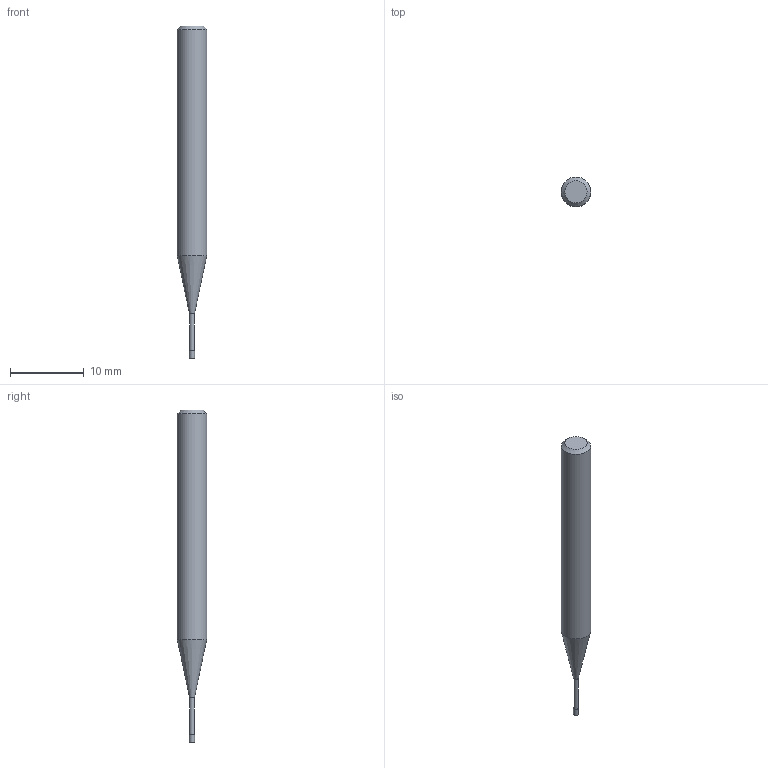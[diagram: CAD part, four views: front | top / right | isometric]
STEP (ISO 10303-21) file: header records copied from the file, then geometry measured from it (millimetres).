
FILE_DESCRIPTION((''),'2;1');
FILE_NAME('C:\Users\nsx150\AppData\Local\Temp\Mastercam 2021\17T8Q8S9EB\TEMP.step','2021-04-21T14:25:07',(''),(''),'STEP Write','Mastercam 2021 ... CNC Software, Inc.','');
FILE_SCHEMA(('AUTOMOTIVE_DESIGN'));
Length unit declared in the file: millimetre
Products named in the file (1): None
Bounding box: 4 x 4 x 45 mm (x, y, z)
Volume: 431.2 mm3; surface area: 472.4 mm2
Topology: 2 solids, 2 shells, 9 faces, 12 edges, 7 vertices
Faces by surface type: plane 4, cylinder 3, cone 2
Full cylindrical faces by diameter (mm): 0.66 x1, 0.7 x1, 4 x1
Entity records: 211 total; most frequent: DIRECTION 36, CARTESIAN_POINT 25, AXIS2_PLACEMENT_3D 18, ORIENTED_EDGE 14, EDGE_LOOP 14, STYLED_ITEM 12, ADVANCED_FACE 9, FACE_BOUND 8
